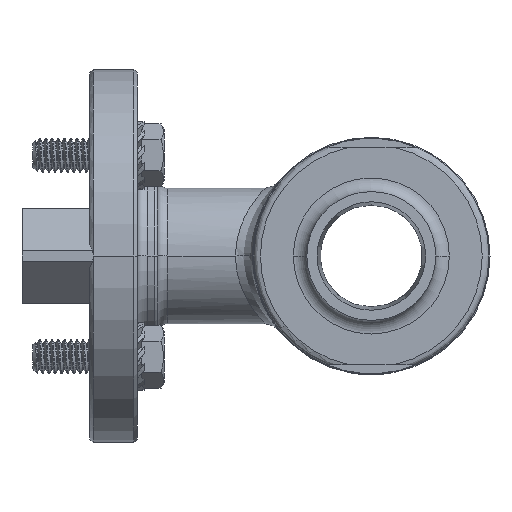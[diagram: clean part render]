
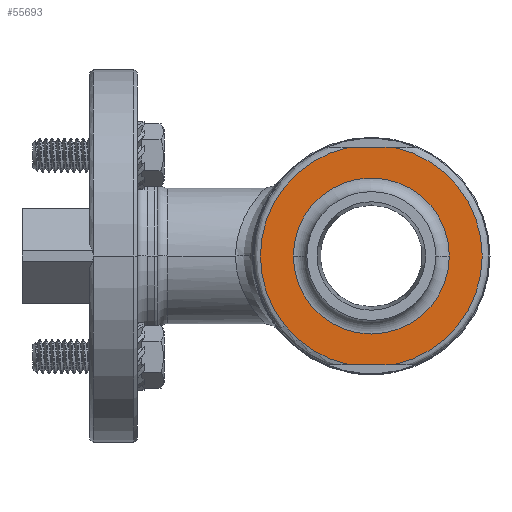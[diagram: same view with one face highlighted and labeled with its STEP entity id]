
A CAD part, left-side view. The second image highlights one B-rep face of the part: STEP entity #55693.
In plain terms, the highlighted planar face has unit normal (-1, 0, 0).
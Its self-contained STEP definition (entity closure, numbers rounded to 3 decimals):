
#10302=DIRECTION('',(0.,1.,0.));
#10303=VECTOR('',#10302,6.73);
#10304=CARTESIAN_POINT('',(-30.,-3.365,-16.));
#10305=LINE('',#10304,#10303);
#10309=DIRECTION('',(0.,1.,0.));
#10310=VECTOR('',#10309,6.73);
#10311=CARTESIAN_POINT('',(-30.,-3.365,16.));
#10312=LINE('',#10311,#10310);
#10316=CARTESIAN_POINT('',(-30.,0.,0.));
#10317=DIRECTION('',(-1.,0.,0.));
#10318=DIRECTION('',(0.,0.206,0.979));
#10319=AXIS2_PLACEMENT_3D('',#10316,#10317,#10318);
#10324=CARTESIAN_POINT('',(-30.,3.365,-16.));
#10365=CARTESIAN_POINT('',(-30.,3.365,16.));
#10442=CARTESIAN_POINT('',(-30.,-3.365,-16.));
#10467=CARTESIAN_POINT('',(-30.,0.,0.));
#10468=DIRECTION('',(-1.,0.,0.));
#10469=DIRECTION('',(0.,-0.206,-0.979));
#10470=AXIS2_PLACEMENT_3D('',#10467,#10468,#10469);
#10475=CARTESIAN_POINT('',(-30.,-3.365,16.));
#10500=CARTESIAN_POINT('',(-30.,0.,0.));
#10501=DIRECTION('',(-1.,0.,0.));
#10502=DIRECTION('',(0.,1.,0.));
#10503=AXIS2_PLACEMENT_3D('',#10500,#10501,#10502);
#10532=CARTESIAN_POINT('',(-30.,0.,0.));
#10533=DIRECTION('',(-1.,0.,0.));
#10534=DIRECTION('',(0.,-1.,0.));
#10535=AXIS2_PLACEMENT_3D('',#10532,#10533,#10534);
#47825=CARTESIAN_POINT('',(-30.,-11.5,0.));
#47826=CARTESIAN_POINT('',(-30.,11.5,0.));
#47827=VERTEX_POINT('',#47825);
#47828=VERTEX_POINT('',#47826);
#47861=VERTEX_POINT('',#10475);
#47864=VERTEX_POINT('',#10442);
#47869=VERTEX_POINT('',#10365);
#47872=VERTEX_POINT('',#10324);
#55673=CARTESIAN_POINT('',(-30.,0.,0.));
#55674=DIRECTION('',(-1.,0.,0.));
#55675=DIRECTION('',(0.,1.,0.));
#55676=AXIS2_PLACEMENT_3D('',#55673,#55674,#55675);
#55677=PLANE('',#55676);
#55678=ORIENTED_EDGE('',*,*,#55661,.T.);
#55680=ORIENTED_EDGE('',*,*,#55679,.F.);
#55682=ORIENTED_EDGE('',*,*,#55681,.F.);
#55684=ORIENTED_EDGE('',*,*,#55683,.F.);
#55685=EDGE_LOOP('',(#55678,#55680,#55682,#55684));
#55686=FACE_OUTER_BOUND('',#55685,.F.);
#55688=ORIENTED_EDGE('',*,*,#55687,.T.);
#55690=ORIENTED_EDGE('',*,*,#55689,.T.);
#55691=EDGE_LOOP('',(#55688,#55690));
#55692=FACE_BOUND('',#55691,.F.);
#55693=ADVANCED_FACE('',(#55686,#55692),#55677,.T.);
#10320=CIRCLE('',#10319,16.35);
#10471=CIRCLE('',#10470,16.35);
#10504=CIRCLE('',#10503,11.5);
#10536=CIRCLE('',#10535,11.5);
#55661=EDGE_CURVE('',#47864,#47872,#10305,.T.);
#55679=EDGE_CURVE('',#47869,#47872,#10320,.T.);
#55681=EDGE_CURVE('',#47861,#47869,#10312,.T.);
#55683=EDGE_CURVE('',#47864,#47861,#10471,.T.);
#55687=EDGE_CURVE('',#47828,#47827,#10504,.T.);
#55689=EDGE_CURVE('',#47827,#47828,#10536,.T.);
